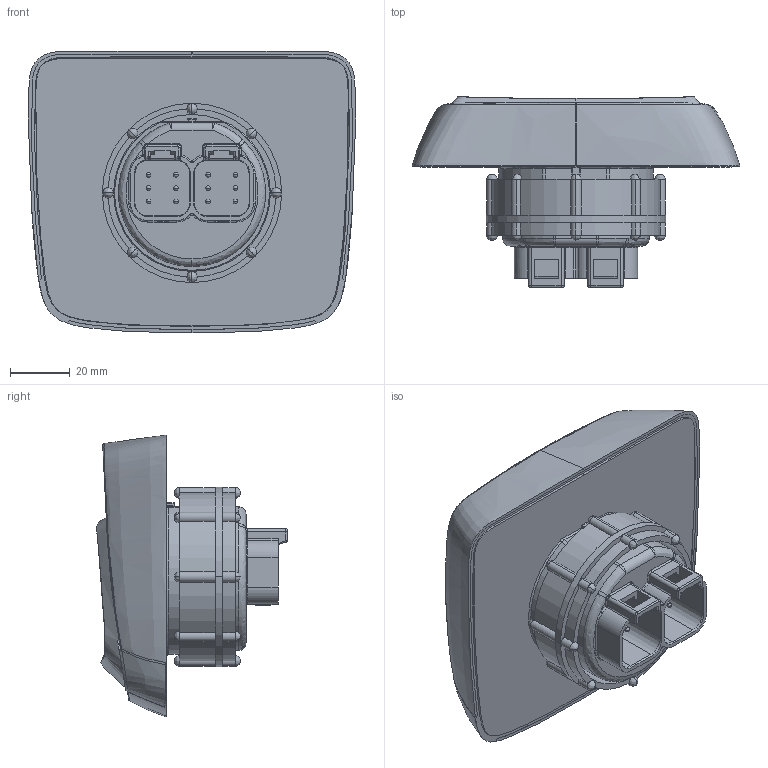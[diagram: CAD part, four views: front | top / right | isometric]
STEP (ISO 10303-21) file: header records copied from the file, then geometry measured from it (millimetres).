
FILE_DESCRIPTION (( 'STEP AP203' ), '1' );
FILE_NAME ('PV101d.STEP', '2006-10-05T21:19:23', ( ' ' ), ( ' ' ), 'SwSTEP 2.0', 'SolidWorks 2006004', '' );
FILE_SCHEMA (( 'CONFIG_CONTROL_DESIGN' ));
Length unit declared in the file: inch
Products named in the file (1): PV101d
Bounding box: 109.36 x 63.6 x 93.97 mm (x, y, z)
Volume: 77737.8 mm3; surface area: 87740.1 mm2
Topology: 8 solids, 8 shells, 782 faces, 2019 edges, 1256 vertices
Faces by surface type: bspline 323, plane 208, cylinder 191, cone 36, torus 24
Entity records: 277391 total; most frequent: CARTESIAN_POINT 261113, ORIENTED_EDGE 3966, DIRECTION 2419, EDGE_CURVE 1983, VERTEX_POINT 1256, AXIS2_PLACEMENT_3D 892, B_SPLINE_CURVE_WITH_KNOTS 838, EDGE_LOOP 835
